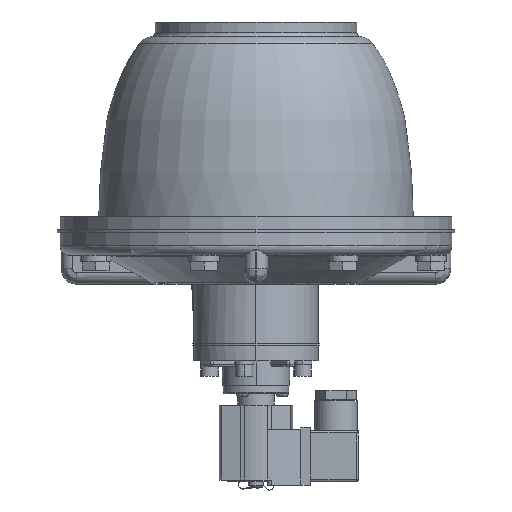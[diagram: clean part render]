
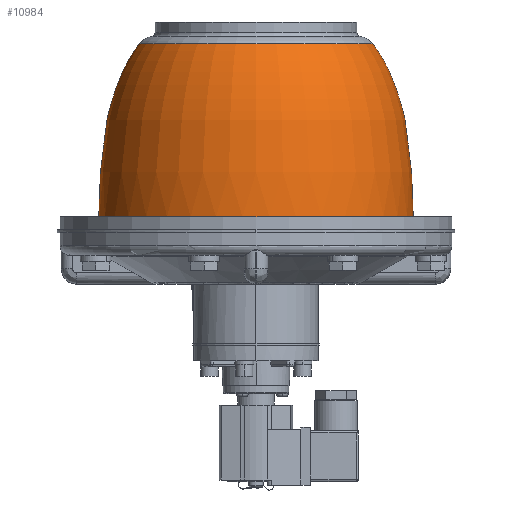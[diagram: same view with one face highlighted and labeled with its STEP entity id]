
A CAD part, left-side view. The second image highlights one B-rep face of the part: STEP entity #10984.
In plain terms, the highlighted face is a revolution surface.
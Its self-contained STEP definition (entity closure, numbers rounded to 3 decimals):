
#3587=CARTESIAN_POINT('',(0.,10.6,68.8));
#3588=DIRECTION('',(0.,0.,-1.));
#3589=DIRECTION('',(0.793,-0.61,0.));
#3590=AXIS2_PLACEMENT_3D('',#3587,#3588,#3589);
#3592=CARTESIAN_POINT('',(64.992,60.6,68.8));
#3593=CARTESIAN_POINT('',(64.869,60.572,70.085));
#3594=CARTESIAN_POINT('',(64.728,60.516,72.662));
#3595=CARTESIAN_POINT('',(64.689,60.432,76.532));
#3596=CARTESIAN_POINT('',(64.661,60.348,80.396));
#3597=CARTESIAN_POINT('',(64.544,60.264,84.266));
#3598=CARTESIAN_POINT('',(64.366,60.18,88.141));
#3599=CARTESIAN_POINT('',(64.134,60.096,92.002));
#3600=CARTESIAN_POINT('',(63.865,60.012,95.832));
#3601=CARTESIAN_POINT('',(63.57,59.929,99.646));
#3602=CARTESIAN_POINT('',(63.204,59.847,103.459));
#3603=CARTESIAN_POINT('',(62.718,59.764,107.262));
#3604=CARTESIAN_POINT('',(62.103,59.682,111.047));
#3605=CARTESIAN_POINT('',(61.608,59.627,113.552));
#3606=CARTESIAN_POINT('',(61.339,59.6,114.8));
#3608=CARTESIAN_POINT('',(61.339,59.6,114.8));
#3609=CARTESIAN_POINT('',(61.017,59.6,116.181));
#3610=CARTESIAN_POINT('',(60.405,59.484,118.965));
#3611=CARTESIAN_POINT('',(59.592,58.936,123.21));
#3612=CARTESIAN_POINT('',(58.911,58.017,127.4));
#3613=CARTESIAN_POINT('',(58.371,56.747,131.45));
#3614=CARTESIAN_POINT('',(57.964,55.179,135.285));
#3615=CARTESIAN_POINT('',(57.651,53.173,139.205));
#3616=CARTESIAN_POINT('',(57.437,50.511,143.4));
#3617=CARTESIAN_POINT('',(57.312,46.833,147.978));
#3618=CARTESIAN_POINT('',(57.222,42.285,152.363));
#3619=CARTESIAN_POINT('',(57.103,37.081,156.187));
#3620=CARTESIAN_POINT('',(57.004,33.58,158.121));
#3621=CARTESIAN_POINT('',(56.953,31.82,158.967));
#3623=CARTESIAN_POINT('',(56.953,-10.62,158.967));
#3624=CARTESIAN_POINT('',(57.004,-12.386,158.118));
#3625=CARTESIAN_POINT('',(57.104,-15.899,156.177));
#3626=CARTESIAN_POINT('',(57.223,-21.126,152.331));
#3627=CARTESIAN_POINT('',(57.313,-25.686,147.921));
#3628=CARTESIAN_POINT('',(57.439,-29.353,143.34));
#3629=CARTESIAN_POINT('',(57.654,-32.001,139.155));
#3630=CARTESIAN_POINT('',(57.968,-34.001,135.237));
#3631=CARTESIAN_POINT('',(58.376,-35.563,131.406));
#3632=CARTESIAN_POINT('',(58.916,-36.826,127.365));
#3633=CARTESIAN_POINT('',(59.596,-37.741,123.184));
#3634=CARTESIAN_POINT('',(60.408,-38.285,118.952));
#3635=CARTESIAN_POINT('',(61.018,-38.4,116.177));
#3636=CARTESIAN_POINT('',(61.339,-38.4,114.8));
#3638=CARTESIAN_POINT('',(61.339,-38.4,114.8));
#3639=CARTESIAN_POINT('',(61.611,-38.427,113.541));
#3640=CARTESIAN_POINT('',(62.11,-38.482,111.012));
#3641=CARTESIAN_POINT('',(62.73,-38.566,107.181));
#3642=CARTESIAN_POINT('',(63.218,-38.649,103.334));
#3643=CARTESIAN_POINT('',(63.583,-38.733,99.486));
#3644=CARTESIAN_POINT('',(63.878,-38.816,95.655));
#3645=CARTESIAN_POINT('',(64.146,-38.899,91.828));
#3646=CARTESIAN_POINT('',(64.374,-38.983,87.992));
#3647=CARTESIAN_POINT('',(64.549,-39.066,84.152));
#3648=CARTESIAN_POINT('',(64.663,-39.15,80.313));
#3649=CARTESIAN_POINT('',(64.689,-39.233,76.475));
#3650=CARTESIAN_POINT('',(64.73,-39.317,72.632));
#3651=CARTESIAN_POINT('',(64.87,-39.372,70.075));
#3652=CARTESIAN_POINT('',(64.992,-39.4,68.8));
#3695=CARTESIAN_POINT('',(0.,10.6,158.967));
#3696=DIRECTION('',(0.,0.,-1.));
#3697=DIRECTION('',(0.937,-0.349,0.));
#3698=AXIS2_PLACEMENT_3D('',#3695,#3696,#3697);
#5985=VERTEX_POINT('',#3638);
#5986=VERTEX_POINT('',#3652);
#5987=VERTEX_POINT('',#3608);
#5988=VERTEX_POINT('',#3621);
#5989=VERTEX_POINT('',#3623);
#5990=VERTEX_POINT('',#3592);
#10958=CARTESIAN_POINT('',(0.,92.691,67.861));
#10959=CARTESIAN_POINT('',(0.,92.658,68.174));
#10960=CARTESIAN_POINT('',(0.,92.292,71.945));
#10961=CARTESIAN_POINT('',(0.,92.277,81.322));
#10962=CARTESIAN_POINT('',(0.,91.571,93.172));
#10963=CARTESIAN_POINT('',(0.,89.938,114.077));
#10964=CARTESIAN_POINT('',(0.,84.583,136.592));
#10965=CARTESIAN_POINT('',(0.,75.452,153.94));
#10966=CARTESIAN_POINT('',(0.,70.803,159.689));
#10968=CARTESIAN_POINT('',(0.,10.6,178.815));
#10969=DIRECTION('',(0.,0.,-1.));
#10970=AXIS1_PLACEMENT('',#10968,#10969);
#10971=SURFACE_OF_REVOLUTION('',#10967,#10970);
#10972=ORIENTED_EDGE('',*,*,#10917,.T.);
#10974=ORIENTED_EDGE('',*,*,#10973,.T.);
#10976=ORIENTED_EDGE('',*,*,#10975,.T.);
#10978=ORIENTED_EDGE('',*,*,#10977,.F.);
#10980=ORIENTED_EDGE('',*,*,#10979,.T.);
#10981=ORIENTED_EDGE('',*,*,#10951,.T.);
#10982=EDGE_LOOP('',(#10972,#10974,#10976,#10978,#10980,#10981));
#10983=FACE_OUTER_BOUND('',#10982,.F.);
#10984=ADVANCED_FACE('',(#10983),#10971,.F.);
#3591=CIRCLE('',#3590,82.);
#3607=B_SPLINE_CURVE_WITH_KNOTS('',3,(#3592,#3593,#3594,#3595,#3596,#3597,#3598,
#3599,#3600,#3601,#3602,#3603,#3604,#3605,#3606),.UNSPECIFIED.,.F.,.F.,(4,1,1,1,
1,1,1,1,1,1,1,1,4),(0.,0.083,0.167,0.25,
0.333,0.417,0.5,0.583,0.667,
0.75,0.833,0.917,1.),.UNSPECIFIED.);
#3622=B_SPLINE_CURVE_WITH_KNOTS('',3,(#3608,#3609,#3610,#3611,#3612,#3613,#3614,
#3615,#3616,#3617,#3618,#3619,#3620,#3621),.UNSPECIFIED.,.F.,.F.,(4,1,1,1,1,1,1,
1,1,1,1,4),(0.,0.091,0.182,0.273,
0.364,0.455,0.545,0.636,
0.727,0.818,0.909,1.),.UNSPECIFIED.);
#3637=B_SPLINE_CURVE_WITH_KNOTS('',3,(#3623,#3624,#3625,#3626,#3627,#3628,#3629,
#3630,#3631,#3632,#3633,#3634,#3635,#3636),.UNSPECIFIED.,.F.,.F.,(4,1,1,1,1,1,1,
1,1,1,1,4),(0.,0.091,0.182,0.273,
0.364,0.455,0.545,0.636,
0.727,0.818,0.909,1.),.UNSPECIFIED.);
#3653=B_SPLINE_CURVE_WITH_KNOTS('',3,(#3638,#3639,#3640,#3641,#3642,#3643,#3644,
#3645,#3646,#3647,#3648,#3649,#3650,#3651,#3652),.UNSPECIFIED.,.F.,.F.,(4,1,1,1,
1,1,1,1,1,1,1,1,4),(0.,0.083,0.167,0.25,
0.333,0.417,0.5,0.583,0.667,
0.75,0.833,0.917,1.),.UNSPECIFIED.);
#3699=CIRCLE('',#3698,60.778);
#10917=EDGE_CURVE('',#5986,#5990,#3591,.T.);
#10951=EDGE_CURVE('',#5985,#5986,#3653,.T.);
#10967=B_SPLINE_CURVE_WITH_KNOTS('',3,(#10958,#10959,#10960,#10961,#10962,
#10963,#10964,#10965,#10966),.UNSPECIFIED.,.F.,.F.,(4,1,1,1,1,1,4),(0.,
0.01,0.118,0.293,0.381,
0.775,1.),.UNSPECIFIED.);
#10973=EDGE_CURVE('',#5990,#5987,#3607,.T.);
#10975=EDGE_CURVE('',#5987,#5988,#3622,.T.);
#10977=EDGE_CURVE('',#5989,#5988,#3699,.T.);
#10979=EDGE_CURVE('',#5989,#5985,#3637,.T.);
